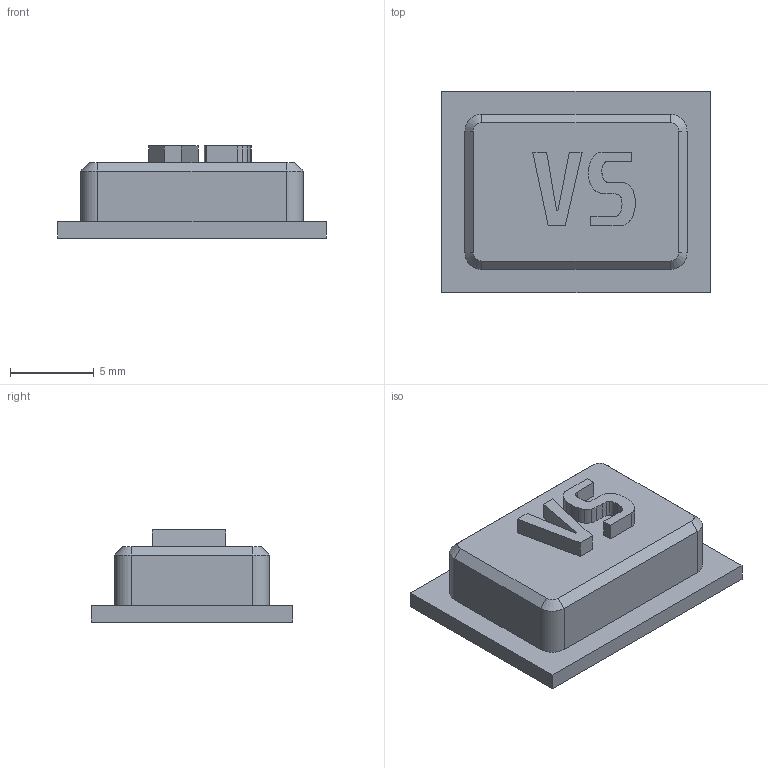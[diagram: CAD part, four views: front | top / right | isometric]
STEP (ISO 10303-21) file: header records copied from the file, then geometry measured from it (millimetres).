
FILE_DESCRIPTION(('FreeCAD Model'),'2;1');
FILE_NAME('E:/CAD Designs/Garmin/Final/CAD files/STEP/VS.step', '2021-02-27T13:01:18',('Author'),(''), 'Open CASCADE STEP processor 7.3','FreeCAD','Unknown');
FILE_SCHEMA(('AUTOMOTIVE_DESIGN { 1 0 10303 214 1 1 1 1 }'));
Length unit declared in the file: millimetre
Products named in the file (2): Body; Extrude
Bounding box: 16 x 12 x 5.5 mm (x, y, z)
Volume: 625 mm3; surface area: 640.9 mm2
Topology: 3 solids, 3 shells, 73 faces, 190 edges, 124 vertices
Faces by surface type: plane 35, extrusion 30, cylinder 4, cone 4
Entity records: 4771 total; most frequent: CARTESIAN_POINT 1074, DIRECTION 579, VECTOR 460, LINE 430, ORIENTED_EDGE 380, PCURVE 380, DEFINITIONAL_REPRESENTATION 380, EDGE_CURVE 190
